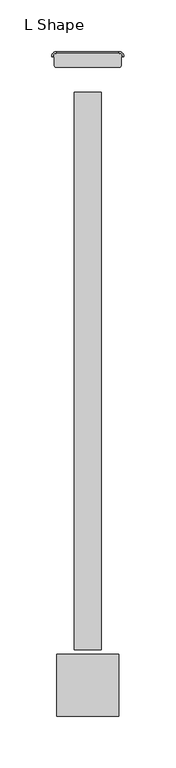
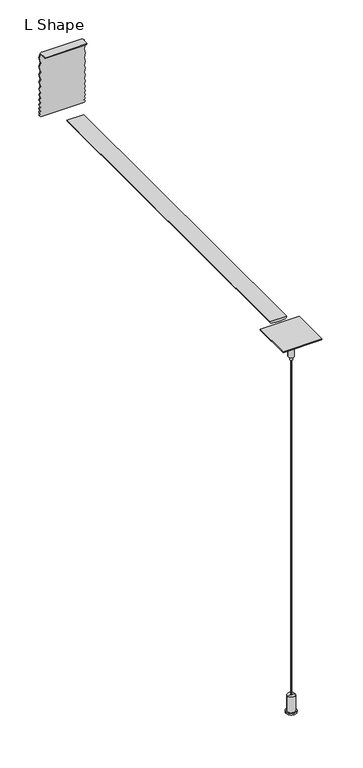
"""IFC4 building model written with IfcOpenShell, lengths in millimetres: light fixture geometry, Lighting-Pendant-Betacalco-Bellows-L_Shape : L Shape."""

from ifc_helpers import new_model, si_unit, point, frame, frame_2d, origin, place, context, project, spatial, polyline, circle_curve, trimmed, segment, composite_curve, outline, extrude, source, transform, mapped, element, save
from ifc_brep_helpers import plane_surface, cylinder_surface, revolved_surface, advanced_brep


def l_shape_80f5c92a(model_context):
    return source(origin(), model_context, "Body", "SolidModel", [
        extrude(outline(polyline([(334.6958, -30.1625), (274.9042, -30.1625), (274.9042, 30.1625), (334.6958, 30.1625), (334.6958, -30.1625)])), frame((0.0, 0.0, 612.648), z_axis=(0.0, 0.0, 1.0), x_axis=(1.0, 0.0, 0.0)), (0.0, 0.0, 1.0), 1.524),
        advanced_brep(
        [(312.8, 0.0, 0.0), (312.8, 0.0, 2.05), (296.8, 0.0, 2.05), (296.8, 0.0, 0.0), (310.8, 0.0, 2.05), (298.8, 0.0, 2.05), (310.8, 0.0, 27.4), (298.8, 0.0, 27.4), (304.8, 0.0, 27.4), (304.8, 0.0, 0.0)],
        [
            (0, 1),
            (1, 2, circle_curve(frame((304.8, 0.0, 2.05), z_axis=(0.0, 0.0, -1.0), x_axis=(-1.0, 0.0, 0.0)), 8.0)),
            (2, 3),
            (3, 0, circle_curve(frame((304.8, 0.0, 0.0), z_axis=(0.0, 0.0, 1.0), x_axis=(-1.0, 0.0, 0.0)), 8.0)),
            (2, 1, circle_curve(frame((304.8, 0.0, 2.05), z_axis=(0.0, 0.0, -1.0), x_axis=(-1.0, 0.0, 0.0)), 8.0)),
            (0, 3, circle_curve(frame((304.8, 0.0, 0.0), z_axis=(0.0, 0.0, 1.0), x_axis=(-1.0, 0.0, 0.0)), 8.0)),
            (1, 4),
            (4, 5, circle_curve(frame((304.8, 0.0, 2.05), z_axis=(0.0, 0.0, -1.0), x_axis=(-1.0, 0.0, 0.0)), 6.0)),
            (5, 2),
            (5, 4, circle_curve(frame((304.8, 0.0, 2.05), z_axis=(0.0, 0.0, -1.0), x_axis=(-1.0, 0.0, 0.0)), 6.0)),
            (4, 6),
            (6, 7, circle_curve(frame((304.8, 0.0, 27.4), z_axis=(0.0, 0.0, -1.0), x_axis=(-1.0, 0.0, 0.0)), 6.0)),
            (7, 5),
            (7, 6, circle_curve(frame((304.8, 0.0, 27.4), z_axis=(0.0, 0.0, -1.0), x_axis=(-1.0, 0.0, 0.0)), 6.0)),
            (6, 8),
            (8, 7),
            (9, 0),
            (3, 9),
        ],
        [
            cylinder_surface(frame((304.8, 0.0, 2366.7150031), z_axis=(0.0, 0.0, -1.0), x_axis=(-1.0, 0.0, 0.0)), 8.0),
            plane_surface(frame((304.8, 0.0, 2.05), z_axis=(0.0, 0.0, 1.0), x_axis=(-1.0, 0.0, 0.0))),
            cylinder_surface(frame((304.8, 0.0, 2366.7150031), z_axis=(0.0, 0.0, -1.0), x_axis=(-1.0, 0.0, 0.0)), 6.0),
            plane_surface(frame((304.8, 0.0, 27.4), z_axis=(0.0, 0.0, 1.0), x_axis=(-1.0, 0.0, 0.0))),
            plane_surface(frame((304.8, 0.0, 0.0), z_axis=(0.0, 0.0, -1.0), x_axis=(-1.0, 0.0, 0.0))),
        ],
        [
            (0, [[1, 2, 3, 4]]),
            (0, [[-3, 5, -1, 6]]),
            (1, [[7, 8, 9, -2]]),
            (1, [[-9, 10, -7, -5]]),
            (2, [[11, 12, 13, -8]]),
            (2, [[-13, 14, -11, -10]]),
            (3, [[15, 16, -12]]),
            (3, [[-16, -15, -14]]),
            (4, [[17, -4, 18]]),
            (4, [[-18, -6, -17]]),
        ],
    ),
        advanced_brep(
        [(305.5937476, 0.0, 27.4), (305.5937476, 0.0, 572.93256), (304.0062524, 0.0, 572.93256), (304.0062524, 0.0, 27.4), (304.8, 0.0, 27.4), (304.8, 0.0, 572.93256)],
        [
            (0, 1),
            (1, 2, circle_curve(frame((304.8, 0.0, 572.93256), z_axis=(0.0, 0.0, -1.0), x_axis=(-1.0, 0.0, 0.0)), 0.7937476)),
            (2, 3),
            (3, 0, circle_curve(frame((304.8, 0.0, 27.4), z_axis=(0.0, 0.0, 1.0), x_axis=(-1.0, 0.0, 0.0)), 0.7937476)),
            (2, 1, circle_curve(frame((304.8, 0.0, 572.93256), z_axis=(0.0, 0.0, -1.0), x_axis=(-1.0, 0.0, 0.0)), 0.7937476)),
            (0, 3, circle_curve(frame((304.8, 0.0, 27.4), z_axis=(0.0, 0.0, 1.0), x_axis=(-1.0, 0.0, 0.0)), 0.7937476)),
            (4, 0),
            (3, 4),
            (1, 5),
            (5, 2),
        ],
        [
            cylinder_surface(frame((304.8, 0.0, 2366.7150031), z_axis=(0.0, 0.0, -1.0), x_axis=(-1.0, 0.0, 0.0)), 0.7937476),
            plane_surface(frame((304.8, 0.0, 27.4), z_axis=(0.0, 0.0, -1.0), x_axis=(-1.0, 0.0, 0.0))),
            plane_surface(frame((304.8, 0.0, 572.93256), z_axis=(0.0, 0.0, 1.0), x_axis=(-1.0, 0.0, 0.0))),
        ],
        [
            (0, [[1, 2, 3, 4]]),
            (0, [[-3, 5, -1, 6]]),
            (1, [[7, -4, 8]]),
            (1, [[-8, -6, -7]]),
            (2, [[9, 10, -2]]),
            (2, [[-10, -9, -5]]),
        ],
    ),
        advanced_brep(
        [(309.2704, 0.0, 578.64756), (309.2704, 0.0, 612.648), (300.3296, 0.0, 612.648), (300.3296, 0.0, 578.64756), (306.7304, 0.0, 578.64756), (302.8696, 0.0, 578.64756), (306.7304, 0.0, 572.93256), (302.8696, 0.0, 572.93256), (304.8, 0.0, 572.93256), (304.8, 0.0, 612.648)],
        [
            (0, 1),
            (1, 2, circle_curve(frame((304.8, 0.0, 612.648), z_axis=(0.0, 0.0, -1.0), x_axis=(-1.0, 0.0, 0.0)), 4.4704)),
            (2, 3),
            (3, 0, circle_curve(frame((304.8, 0.0, 578.64756), z_axis=(0.0, 0.0, 1.0), x_axis=(-1.0, 0.0, 0.0)), 4.4704)),
            (2, 1, circle_curve(frame((304.8, 0.0, 612.648), z_axis=(0.0, 0.0, -1.0), x_axis=(-1.0, 0.0, 0.0)), 4.4704)),
            (0, 3, circle_curve(frame((304.8, 0.0, 578.64756), z_axis=(0.0, 0.0, 1.0), x_axis=(-1.0, 0.0, 0.0)), 4.4704)),
            (4, 0),
            (3, 5),
            (5, 4, circle_curve(frame((304.8, 0.0, 578.64756), z_axis=(0.0, 0.0, 1.0), x_axis=(-1.0, 0.0, 0.0)), 1.9304)),
            (4, 5, circle_curve(frame((304.8, 0.0, 578.64756), z_axis=(0.0, 0.0, 1.0), x_axis=(-1.0, 0.0, 0.0)), 1.9304)),
            (6, 4),
            (5, 7),
            (7, 6, circle_curve(frame((304.8, 0.0, 572.93256), z_axis=(0.0, 0.0, 1.0), x_axis=(-1.0, 0.0, 0.0)), 1.9304)),
            (6, 7, circle_curve(frame((304.8, 0.0, 572.93256), z_axis=(0.0, 0.0, 1.0), x_axis=(-1.0, 0.0, 0.0)), 1.9304)),
            (8, 6),
            (7, 8),
            (1, 9),
            (9, 2),
        ],
        [
            cylinder_surface(frame((304.8, 0.0, 2366.7150031), z_axis=(0.0, 0.0, -1.0), x_axis=(-1.0, 0.0, 0.0)), 4.4704),
            plane_surface(frame((304.8, 0.0, 578.64756), z_axis=(0.0, 0.0, -1.0), x_axis=(-1.0, 0.0, 0.0))),
            cylinder_surface(frame((304.8, 0.0, 2366.7150031), z_axis=(0.0, 0.0, -1.0), x_axis=(-1.0, 0.0, 0.0)), 1.9304),
            plane_surface(frame((304.8, 0.0, 572.93256), z_axis=(0.0, 0.0, -1.0), x_axis=(-1.0, 0.0, 0.0))),
            plane_surface(frame((304.8, 0.0, 612.648), z_axis=(0.0, 0.0, 1.0), x_axis=(-1.0, 0.0, 0.0))),
        ],
        [
            (0, [[1, 2, 3, 4]]),
            (0, [[-3, 5, -1, 6]]),
            (1, [[7, -4, 8, 9]]),
            (1, [[-8, -6, -7, 10]]),
            (2, [[11, -9, 12, 13]]),
            (2, [[-12, -10, -11, 14]]),
            (3, [[15, -13, 16]]),
            (3, [[-16, -14, -15]]),
            (4, [[17, 18, -2]]),
            (4, [[-18, -17, -5]]),
        ],
    ),
        extrude(outline(composite_curve([segment(trimmed(circle_curve(frame_2d((617.6899758, 295.0365915)), 3.0000001), [point((616.3504727, 292.3522421))], [point((614.7956432, 294.2473898))], False, "CARTESIAN"), True, "CONTINUOUS"), segment(trimmed(circle_curve(frame_2d((653.4964752, 304.8)), 40.113738), [point((614.7956432, 294.2473898))], [point((614.7956432, 315.3526102))], False, "CARTESIAN"), True, "CONTINUOUS"), segment(trimmed(circle_curve(frame_2d((617.6899758, 314.5634085)), 3.0000001), [point((614.7956432, 315.3526102))], [point((616.3504727, 317.2477579))], False, "CARTESIAN"), True, "CONTINUOUS"), segment(polyline([(616.3504727, 317.2477579), (617.6039135, 317.8732308), (617.6039135, 291.7267692), (616.3504727, 292.3522421)]), True, "CONTINUOUS")], self_intersect=False)), frame((0.0, 34.29, 0.0), z_axis=(0.0, 1.0, 0.0), x_axis=(0.0, 0.0, 1.0)), (0.0, 0.0, 1.0), 541.02),
        advanced_brep(
        [(339.9474913, 609.6, 611.632), (338.1694913, 609.6, 613.664), (339.9474913, 609.6, 616.204), (338.1694913, 609.6, 618.744), (339.9474913, 609.6, 621.792), (338.1694913, 609.6, 624.84), (339.9474913, 609.6, 628.396), (338.1694913, 609.6, 631.952), (339.9474913, 609.6, 635.762), (338.1694913, 609.6, 639.572), (339.91885, 609.6, 644.0703509), (338.1966915, 609.6, 648.6460566), (339.9239968, 609.6, 653.7288728), (338.1919128, 609.6, 658.8119386), (339.9278878, 609.6, 664.402389), (338.1882749, 609.6, 669.9929656), (339.9308966, 609.6, 676.091104), (338.1848944, 609.6, 682.1911894), (339.9351705, 609.6, 689.3067168), (338.1815995, 609.6, 696.4195673), (339.9359826, 609.6, 703.786321), (338.1694913, 609.6, 711.2), (337.4229178, 609.6, 711.2), (337.4229178, 609.6, 709.8332722), (272.1770822, 609.6, 709.8332722), (272.1770822, 609.6, 711.2), (271.4305087, 609.6, 711.2), (269.6640174, 609.6, 703.786321), (271.4184005, 609.6, 696.4195673), (269.6648295, 609.6, 689.3067168), (271.4151056, 609.6, 682.1911894), (269.6691034, 609.6, 676.091104), (271.4117251, 609.6, 669.9929656), (269.6721122, 609.6, 664.402389), (271.4080872, 609.6, 658.8119386), (269.6760032, 609.6, 653.7288728), (271.4033085, 609.6, 648.6460566), (269.68115, 609.6, 644.0703509), (271.4305087, 609.6, 639.572), (269.6525087, 609.6, 635.762), (271.4305087, 609.6, 631.952), (269.6525087, 609.6, 628.396), (271.4305087, 609.6, 624.84), (269.6525087, 609.6, 621.792), (271.4305087, 609.6, 618.744), (269.6525087, 609.6, 616.204), (271.4305087, 609.6, 613.664), (269.6525087, 609.6, 611.632), (271.4305087, 609.6, 609.6), (338.1694913, 609.6, 609.6), (334.7564913, 613.013, 609.6), (334.7564913, 614.791, 611.632), (274.8435087, 613.013, 609.6), (334.7564913, 613.013, 711.2), (274.8435087, 613.013, 711.2), (272.2845297, 600.7807007, 711.2), (273.3999402, 599.6222216, 711.2), (336.2000598, 599.6222216, 711.2), (337.3154703, 600.7807007, 711.2), (334.7564913, 614.7794913, 703.786321), (334.7564913, 613.0251082, 696.4195673), (334.7564913, 614.7786792, 689.3067168), (334.7564913, 613.0284031, 682.1911894), (334.7564913, 614.7744054, 676.091104), (334.7564913, 613.0317837, 669.9929656), (334.7564913, 614.7713965, 664.402389), (334.7564913, 613.0354215, 658.8119386), (334.7564913, 614.7675055, 653.7288728), (334.7564913, 613.0402002, 648.6460566), (334.7564913, 614.7623587, 644.0703509), (334.7564913, 613.013, 639.572), (334.7564913, 614.791, 635.762), (334.7564913, 613.013, 631.952), (334.7564913, 614.791, 628.396), (334.7564913, 613.013, 624.84), (334.7564913, 614.791, 621.792), (334.7564913, 613.013, 618.744), (334.7564913, 614.791, 616.204), (334.7564913, 613.013, 613.664), (274.8435087, 614.791, 611.632), (274.8435087, 614.7794913, 703.786321), (274.8435087, 613.0251082, 696.4195673), (274.8435087, 614.7786792, 689.3067168), (274.8435087, 613.0284031, 682.1911894), (274.8435087, 614.7744054, 676.091104), (274.8435087, 613.0317837, 669.9929656), (274.8435087, 614.7713965, 664.402389), (274.8435087, 613.0354215, 658.8119386), (274.8435087, 614.7675055, 653.7288728), (274.8435087, 613.0402002, 648.6460566), (274.8435087, 614.7623587, 644.0703509), (274.8435087, 613.013, 639.572), (274.8435087, 614.791, 635.762), (274.8435087, 613.013, 631.952), (274.8435087, 614.791, 628.396), (274.8435087, 613.013, 624.84), (274.8435087, 614.791, 621.792), (274.8435087, 613.013, 618.744), (274.8435087, 614.791, 616.204), (274.8435087, 613.013, 613.664), (273.3999402, 599.6222216, 709.8332722), (272.2845297, 600.7807007, 709.8332722), (337.3154703, 600.7807007, 709.8332722), (336.2000598, 599.6222216, 709.8332722)],
        [
            (0, 1),
            (1, 2),
            (2, 3),
            (3, 4),
            (4, 5),
            (5, 6),
            (6, 7),
            (7, 8),
            (8, 9),
            (9, 10),
            (10, 11),
            (11, 12),
            (12, 13),
            (13, 14),
            (14, 15),
            (15, 16),
            (16, 17),
            (17, 18),
            (18, 19),
            (19, 20),
            (20, 21),
            (21, 22),
            (22, 23),
            (23, 24),
            (24, 25),
            (25, 26),
            (26, 27),
            (27, 28),
            (28, 29),
            (29, 30),
            (30, 31),
            (31, 32),
            (32, 33),
            (33, 34),
            (34, 35),
            (35, 36),
            (36, 37),
            (37, 38),
            (38, 39),
            (39, 40),
            (40, 41),
            (41, 42),
            (42, 43),
            (43, 44),
            (44, 45),
            (45, 46),
            (46, 47),
            (47, 48),
            (48, 49),
            (49, 0),
            (49, 50, circle_curve(frame((334.7564913, 609.6, 609.6), z_axis=(0.0, 0.0, 1.0), x_axis=(1.0, 0.0, 0.0)), 3.413)),
            (50, 51),
            (51, 0, circle_curve(frame((334.7564913, 609.6, 611.632), z_axis=(0.0, 0.0, -1.0), x_axis=(1.0, 0.0, 0.0)), 5.191)),
            (48, 52, circle_curve(frame((274.8435087, 609.6, 609.6), z_axis=(0.0, 0.0, -1.0), x_axis=(0.0, 1.0, 0.0)), 3.413)),
            (52, 50),
            (53, 54),
            (54, 26, circle_curve(frame((274.8435087, 609.6, 711.2), z_axis=(0.0, 0.0, 1.0), x_axis=(0.0, 1.0, 0.0)), 3.413)),
            (25, 55),
            (55, 56),
            (56, 57),
            (57, 58),
            (58, 22),
            (21, 53, circle_curve(frame((334.7564913, 609.6, 711.2), z_axis=(0.0, 0.0, 1.0), x_axis=(1.0, 0.0, 0.0)), 3.413)),
            (20, 59, circle_curve(frame((334.7564913, 609.6, 703.786321), z_axis=(0.0, 0.0, 1.0), x_axis=(1.0, 0.0, 0.0)), 5.1794913)),
            (59, 53),
            (19, 60, circle_curve(frame((334.7564913, 609.6, 696.4195673), z_axis=(0.0, 0.0, 1.0), x_axis=(1.0, 0.0, 0.0)), 3.4251082)),
            (60, 59),
            (18, 61, circle_curve(frame((334.7564913, 609.6, 689.3067168), z_axis=(0.0, 0.0, 1.0), x_axis=(1.0, 0.0, 0.0)), 5.1786792)),
            (61, 60),
            (17, 62, circle_curve(frame((334.7564913, 609.6, 682.1911894), z_axis=(0.0, 0.0, 1.0), x_axis=(1.0, 0.0, 0.0)), 3.4284031)),
            (62, 61),
            (16, 63, circle_curve(frame((334.7564913, 609.6, 676.091104), z_axis=(0.0, 0.0, 1.0), x_axis=(1.0, 0.0, 0.0)), 5.1744054)),
            (63, 62),
            (15, 64, circle_curve(frame((334.7564913, 609.6, 669.9929656), z_axis=(0.0, 0.0, 1.0), x_axis=(1.0, 0.0, 0.0)), 3.4317837)),
            (64, 63),
            (14, 65, circle_curve(frame((334.7564913, 609.6, 664.402389), z_axis=(0.0, 0.0, 1.0), x_axis=(1.0, 0.0, 0.0)), 5.1713965)),
            (65, 64),
            (13, 66, circle_curve(frame((334.7564913, 609.6, 658.8119386), z_axis=(0.0, 0.0, 1.0), x_axis=(1.0, 0.0, 0.0)), 3.4354215)),
            (66, 65),
            (12, 67, circle_curve(frame((334.7564913, 609.6, 653.7288728), z_axis=(0.0, 0.0, 1.0), x_axis=(1.0, 0.0, 0.0)), 5.1675055)),
            (67, 66),
            (11, 68, circle_curve(frame((334.7564913, 609.6, 648.6460566), z_axis=(0.0, 0.0, 1.0), x_axis=(1.0, 0.0, 0.0)), 3.4402002)),
            (68, 67),
            (10, 69, circle_curve(frame((334.7564913, 609.6, 644.0703509), z_axis=(0.0, 0.0, 1.0), x_axis=(1.0, 0.0, 0.0)), 5.1623587)),
            (69, 68),
            (9, 70, circle_curve(frame((334.7564913, 609.6, 639.572), z_axis=(0.0, 0.0, 1.0), x_axis=(1.0, 0.0, 0.0)), 3.413)),
            (70, 69),
            (8, 71, circle_curve(frame((334.7564913, 609.6, 635.762), z_axis=(0.0, 0.0, 1.0), x_axis=(1.0, 0.0, 0.0)), 5.191)),
            (71, 70),
            (7, 72, circle_curve(frame((334.7564913, 609.6, 631.952), z_axis=(0.0, 0.0, 1.0), x_axis=(1.0, 0.0, 0.0)), 3.413)),
            (72, 71),
            (6, 73, circle_curve(frame((334.7564913, 609.6, 628.396), z_axis=(0.0, 0.0, 1.0), x_axis=(1.0, 0.0, 0.0)), 5.191)),
            (73, 72),
            (5, 74, circle_curve(frame((334.7564913, 609.6, 624.84), z_axis=(0.0, 0.0, 1.0), x_axis=(1.0, 0.0, 0.0)), 3.413)),
            (74, 73),
            (4, 75, circle_curve(frame((334.7564913, 609.6, 621.792), z_axis=(0.0, 0.0, 1.0), x_axis=(1.0, 0.0, 0.0)), 5.191)),
            (75, 74),
            (3, 76, circle_curve(frame((334.7564913, 609.6, 618.744), z_axis=(0.0, 0.0, 1.0), x_axis=(1.0, 0.0, 0.0)), 3.413)),
            (76, 75),
            (2, 77, circle_curve(frame((334.7564913, 609.6, 616.204), z_axis=(0.0, 0.0, 1.0), x_axis=(1.0, 0.0, 0.0)), 5.191)),
            (77, 76),
            (1, 78, circle_curve(frame((334.7564913, 609.6, 613.664), z_axis=(0.0, 0.0, 1.0), x_axis=(1.0, 0.0, 0.0)), 3.413)),
            (78, 77),
            (51, 78),
            (52, 79),
            (79, 51),
            (59, 80),
            (80, 54),
            (60, 81),
            (81, 80),
            (61, 82),
            (82, 81),
            (62, 83),
            (83, 82),
            (63, 84),
            (84, 83),
            (64, 85),
            (85, 84),
            (65, 86),
            (86, 85),
            (66, 87),
            (87, 86),
            (67, 88),
            (88, 87),
            (68, 89),
            (89, 88),
            (69, 90),
            (90, 89),
            (70, 91),
            (91, 90),
            (71, 92),
            (92, 91),
            (72, 93),
            (93, 92),
            (73, 94),
            (94, 93),
            (74, 95),
            (95, 94),
            (75, 96),
            (96, 95),
            (76, 97),
            (97, 96),
            (77, 98),
            (98, 97),
            (78, 99),
            (99, 98),
            (79, 99),
            (100, 101),
            (101, 24),
            (23, 102),
            (102, 103),
            (103, 100),
            (55, 101),
            (100, 56),
            (58, 102),
            (57, 103),
            (47, 79, circle_curve(frame((274.8435087, 609.6, 611.632), z_axis=(0.0, 0.0, -1.0), x_axis=(0.0, 1.0, 0.0)), 5.191)),
            (80, 27, circle_curve(frame((274.8435087, 609.6, 703.786321), z_axis=(0.0, 0.0, 1.0), x_axis=(0.0, 1.0, 0.0)), 5.1794913)),
            (81, 28, circle_curve(frame((274.8435087, 609.6, 696.4195673), z_axis=(0.0, 0.0, 1.0), x_axis=(0.0, 1.0, 0.0)), 3.4251082)),
            (82, 29, circle_curve(frame((274.8435087, 609.6, 689.3067168), z_axis=(0.0, 0.0, 1.0), x_axis=(0.0, 1.0, 0.0)), 5.1786792)),
            (83, 30, circle_curve(frame((274.8435087, 609.6, 682.1911894), z_axis=(0.0, 0.0, 1.0), x_axis=(0.0, 1.0, 0.0)), 3.4284031)),
            (84, 31, circle_curve(frame((274.8435087, 609.6, 676.091104), z_axis=(0.0, 0.0, 1.0), x_axis=(0.0, 1.0, 0.0)), 5.1744054)),
            (85, 32, circle_curve(frame((274.8435087, 609.6, 669.9929656), z_axis=(0.0, 0.0, 1.0), x_axis=(0.0, 1.0, 0.0)), 3.4317837)),
            (86, 33, circle_curve(frame((274.8435087, 609.6, 664.402389), z_axis=(0.0, 0.0, 1.0), x_axis=(0.0, 1.0, 0.0)), 5.1713965)),
            (87, 34, circle_curve(frame((274.8435087, 609.6, 658.8119386), z_axis=(0.0, 0.0, 1.0), x_axis=(0.0, 1.0, 0.0)), 3.4354215)),
            (88, 35, circle_curve(frame((274.8435087, 609.6, 653.7288728), z_axis=(0.0, 0.0, 1.0), x_axis=(0.0, 1.0, 0.0)), 5.1675055)),
            (89, 36, circle_curve(frame((274.8435087, 609.6, 648.6460566), z_axis=(0.0, 0.0, 1.0), x_axis=(0.0, 1.0, 0.0)), 3.4402002)),
            (90, 37, circle_curve(frame((274.8435087, 609.6, 644.0703509), z_axis=(0.0, 0.0, 1.0), x_axis=(0.0, 1.0, 0.0)), 5.1623587)),
            (91, 38, circle_curve(frame((274.8435087, 609.6, 639.572), z_axis=(0.0, 0.0, 1.0), x_axis=(0.0, 1.0, 0.0)), 3.413)),
            (92, 39, circle_curve(frame((274.8435087, 609.6, 635.762), z_axis=(0.0, 0.0, 1.0), x_axis=(0.0, 1.0, 0.0)), 5.191)),
            (93, 40, circle_curve(frame((274.8435087, 609.6, 631.952), z_axis=(0.0, 0.0, 1.0), x_axis=(0.0, 1.0, 0.0)), 3.413)),
            (94, 41, circle_curve(frame((274.8435087, 609.6, 628.396), z_axis=(0.0, 0.0, 1.0), x_axis=(0.0, 1.0, 0.0)), 5.191)),
            (95, 42, circle_curve(frame((274.8435087, 609.6, 624.84), z_axis=(0.0, 0.0, 1.0), x_axis=(0.0, 1.0, 0.0)), 3.413)),
            (96, 43, circle_curve(frame((274.8435087, 609.6, 621.792), z_axis=(0.0, 0.0, 1.0), x_axis=(0.0, 1.0, 0.0)), 5.191)),
            (97, 44, circle_curve(frame((274.8435087, 609.6, 618.744), z_axis=(0.0, 0.0, 1.0), x_axis=(0.0, 1.0, 0.0)), 3.413)),
            (98, 45, circle_curve(frame((274.8435087, 609.6, 616.204), z_axis=(0.0, 0.0, 1.0), x_axis=(0.0, 1.0, 0.0)), 5.191)),
            (99, 46, circle_curve(frame((274.8435087, 609.6, 613.664), z_axis=(0.0, 0.0, 1.0), x_axis=(0.0, 1.0, 0.0)), 3.413)),
        ],
        [
            plane_surface(frame((340.1935941, 609.6, 609.6), z_axis=(0.0, -1.0, 0.0), x_axis=(0.0, 0.0, 1.0))),
            revolved_surface(polyline([(339.9474913, 609.6, 611.632), (338.1694913, 609.6, 609.6)]), (334.7564913, 609.6, 609.6), (0.0, 0.0, -1.0)),
            plane_surface(frame((334.7564913, 609.6, 609.6), z_axis=(0.0, 0.0, -1.0), x_axis=(1.0, 0.0, 0.0))),
            plane_surface(frame((334.7564913, 609.6, 711.2), z_axis=(0.0, 0.0, 1.0), x_axis=(1.0, 0.0, 0.0))),
            revolved_surface(polyline([(338.1694913, 609.6, 711.2), (339.9359826, 609.6, 703.786321)]), (334.7564913, 609.6, 609.6), (0.0, 0.0, -1.0)),
            revolved_surface(polyline([(339.9359826, 609.6, 703.786321), (338.1815995, 609.6, 696.4195673)]), (334.7564913, 609.6, 609.6), (0.0, 0.0, -1.0)),
            revolved_surface(polyline([(338.1815995, 609.6, 696.4195673), (339.9351705, 609.6, 689.3067168)]), (334.7564913, 609.6, 609.6), (0.0, 0.0, -1.0)),
            revolved_surface(polyline([(339.9351705, 609.6, 689.3067168), (338.1848944, 609.6, 682.1911894)]), (334.7564913, 609.6, 609.6), (0.0, 0.0, -1.0)),
            revolved_surface(polyline([(338.1848944, 609.6, 682.1911894), (339.9308966, 609.6, 676.091104)]), (334.7564913, 609.6, 609.6), (0.0, 0.0, -1.0)),
            revolved_surface(polyline([(339.9308966, 609.6, 676.091104), (338.1882749, 609.6, 669.9929656)]), (334.7564913, 609.6, 609.6), (0.0, 0.0, -1.0)),
            revolved_surface(polyline([(338.1882749, 609.6, 669.9929656), (339.9278878, 609.6, 664.402389)]), (334.7564913, 609.6, 609.6), (0.0, 0.0, -1.0)),
            revolved_surface(polyline([(339.9278878, 609.6, 664.402389), (338.1919128, 609.6, 658.8119386)]), (334.7564913, 609.6, 609.6), (0.0, 0.0, -1.0)),
            revolved_surface(polyline([(338.1919128, 609.6, 658.8119386), (339.9239968, 609.6, 653.7288728)]), (334.7564913, 609.6, 609.6), (0.0, 0.0, -1.0)),
            revolved_surface(polyline([(339.9239968, 609.6, 653.7288728), (338.1966915, 609.6, 648.6460566)]), (334.7564913, 609.6, 609.6), (0.0, 0.0, -1.0)),
            revolved_surface(polyline([(338.1966915, 609.6, 648.6460566), (339.91885, 609.6, 644.0703509)]), (334.7564913, 609.6, 609.6), (0.0, 0.0, -1.0)),
            revolved_surface(polyline([(339.91885, 609.6, 644.0703509), (338.1694913, 609.6, 639.572)]), (334.7564913, 609.6, 609.6), (0.0, 0.0, -1.0)),
            revolved_surface(polyline([(338.1694913, 609.6, 639.572), (339.9474913, 609.6, 635.762)]), (334.7564913, 609.6, 609.6), (0.0, 0.0, -1.0)),
            revolved_surface(polyline([(339.9474913, 609.6, 635.762), (338.1694913, 609.6, 631.952)]), (334.7564913, 609.6, 609.6), (0.0, 0.0, -1.0)),
            revolved_surface(polyline([(338.1694913, 609.6, 631.952), (339.9474913, 609.6, 628.396)]), (334.7564913, 609.6, 609.6), (0.0, 0.0, -1.0)),
            revolved_surface(polyline([(339.9474913, 609.6, 628.396), (338.1694913, 609.6, 624.84)]), (334.7564913, 609.6, 609.6), (0.0, 0.0, -1.0)),
            revolved_surface(polyline([(338.1694913, 609.6, 624.84), (339.9474913, 609.6, 621.792)]), (334.7564913, 609.6, 609.6), (0.0, 0.0, -1.0)),
            revolved_surface(polyline([(339.9474913, 609.6, 621.792), (338.1694913, 609.6, 618.744)]), (334.7564913, 609.6, 609.6), (0.0, 0.0, -1.0)),
            revolved_surface(polyline([(338.1694913, 609.6, 618.744), (339.9474913, 609.6, 616.204)]), (334.7564913, 609.6, 609.6), (0.0, 0.0, -1.0)),
            revolved_surface(polyline([(339.9474913, 609.6, 616.204), (338.1694913, 609.6, 613.664)]), (334.7564913, 609.6, 609.6), (0.0, 0.0, -1.0)),
            revolved_surface(polyline([(338.1694913, 609.6, 613.664), (339.9474913, 609.6, 611.632)]), (334.7564913, 609.6, 609.6), (0.0, 0.0, -1.0)),
            plane_surface(frame((334.7564913, 614.791, 611.632), z_axis=(0.0, 0.7525766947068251, -0.6585046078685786), x_axis=(-1.0, 0.0, 0.0))),
            plane_surface(frame((334.7564913, 613.013, 711.2), z_axis=(0.0, 0.9727668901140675, 0.23178562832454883), x_axis=(-1.0, 0.0, 0.0))),
            plane_surface(frame((334.7564913, 614.7794913, 703.786321), z_axis=(0.0, 0.9727944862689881, -0.23166978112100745), x_axis=(-1.0, 0.0, 0.0))),
            plane_surface(frame((334.7564913, 613.0251082, 696.4195673), z_axis=(0.0, 0.9709287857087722, 0.23936852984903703), x_axis=(-1.0, 0.0, 0.0))),
            plane_surface(frame((334.7564913, 614.7786792, 689.3067168), z_axis=(0.0, 0.9710540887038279, -0.23885970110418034), x_axis=(-1.0, 0.0, 0.0))),
            plane_surface(frame((334.7564913, 613.0284031, 682.1911894), z_axis=(0.0, 0.9613939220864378, 0.27517581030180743), x_axis=(-1.0, 0.0, 0.0))),
            plane_surface(frame((334.7564913, 614.7744054, 676.091104), z_axis=(0.0, 0.9615116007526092, -0.2747643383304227), x_axis=(-1.0, 0.0, 0.0))),
            plane_surface(frame((334.7564913, 613.0317837, 669.9929656), z_axis=(0.0, 0.9548411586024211, 0.29711674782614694), x_axis=(-1.0, 0.0, 0.0))),
            plane_surface(frame((334.7564913, 614.7713965, 664.402389), z_axis=(0.0, 0.9550153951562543, -0.29655622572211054), x_axis=(-1.0, 0.0, 0.0))),
            plane_surface(frame((334.7564913, 613.0354215, 658.8119386), z_axis=(0.0, 0.9465545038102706, 0.3225439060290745), x_axis=(-1.0, 0.0, 0.0))),
            plane_surface(frame((334.7564913, 614.7675055, 653.7288728), z_axis=(0.0, 0.9468211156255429, -0.3217604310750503), x_axis=(-1.0, 0.0, 0.0))),
            plane_surface(frame((334.7564913, 613.0402002, 648.6460566), z_axis=(0.0, 0.9359069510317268, 0.3522473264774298), x_axis=(-1.0, 0.0, 0.0))),
            plane_surface(frame((334.7564913, 614.7623587, 644.0703509), z_axis=(0.0, 0.9320046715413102, -0.36244626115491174), x_axis=(-1.0, 0.0, 0.0))),
            plane_surface(frame((334.7564913, 613.013, 639.572), z_axis=(0.0, 0.9061831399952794, 0.42288546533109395), x_axis=(-1.0, 0.0, 0.0))),
            plane_surface(frame((334.7564913, 614.791, 635.762), z_axis=(0.0, 0.9061831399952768, -0.42288546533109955), x_axis=(-1.0, 0.0, 0.0))),
            plane_surface(frame((334.7564913, 613.013, 631.952), z_axis=(0.0, 0.8944271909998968, 0.4472135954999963), x_axis=(-1.0, 0.0, 0.0))),
            plane_surface(frame((334.7564913, 614.791, 628.396), z_axis=(0.0, 0.8944271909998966, -0.44721359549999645), x_axis=(-1.0, 0.0, 0.0))),
            plane_surface(frame((334.7564913, 613.013, 624.84), z_axis=(0.0, 0.8637789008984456, 0.5038710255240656), x_axis=(-1.0, 0.0, 0.0))),
            plane_surface(frame((334.7564913, 614.791, 621.792), z_axis=(0.0, 0.8637789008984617, -0.503871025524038), x_axis=(-1.0, 0.0, 0.0))),
            plane_surface(frame((334.7564913, 613.013, 618.744), z_axis=(0.0, 0.8192319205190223, 0.5734623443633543), x_axis=(-1.0, 0.0, 0.0))),
            plane_surface(frame((334.7564913, 614.791, 616.204), z_axis=(0.0, 0.8192319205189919, -0.5734623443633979), x_axis=(-1.0, 0.0, 0.0))),
            plane_surface(frame((334.7564913, 613.013, 613.664), z_axis=(0.0, 0.7525766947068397, 0.6585046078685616), x_axis=(-1.0, 0.0, 0.0))),
            plane_surface(frame((273.3999402, 599.6222216, 709.8332722), z_axis=(0.0, 0.0, -1.0), x_axis=(0.6935894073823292, -0.7203705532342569, 0.0))),
            plane_surface(frame((273.3999402, 599.6222216, 711.2), z_axis=(-0.7203705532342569, -0.6935894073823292, 0.0), x_axis=(0.0, 0.0, -1.0))),
            plane_surface(frame((272.2845297, 600.7807007, 711.2), z_axis=(-0.9999257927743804, -0.012182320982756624, 0.0), x_axis=(0.0, 0.0, -1.0))),
            plane_surface(frame((337.4229178, 609.6, 711.2), z_axis=(0.9999257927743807, -0.012182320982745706, 0.0), x_axis=(0.0, 0.0, -1.0))),
            plane_surface(frame((337.3154703, 600.7807007, 711.2), z_axis=(0.7203705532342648, -0.693589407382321, 0.0), x_axis=(0.0, 0.0, -1.0))),
            plane_surface(frame((336.2000598, 599.6222216, 711.2), z_axis=(0.0, -1.0, 0.0), x_axis=(0.0, 0.0, -1.0))),
            revolved_surface(polyline([(274.8435087, 614.791, 611.632), (274.8435087, 613.013, 609.6)]), (274.8435087, 609.6, 609.6), (0.0, 0.0, -1.0)),
            revolved_surface(polyline([(274.8435087, 613.013, 711.2), (274.8435087, 614.7794913, 703.786321)]), (274.8435087, 609.6, 609.6), (0.0, 0.0, -1.0)),
            revolved_surface(polyline([(274.8435087, 614.7794913, 703.786321), (274.8435087, 613.0251082, 696.4195673)]), (274.8435087, 609.6, 609.6), (0.0, 0.0, -1.0)),
            revolved_surface(polyline([(274.8435087, 613.0251082, 696.4195673), (274.8435087, 614.7786792, 689.3067168)]), (274.8435087, 609.6, 609.6), (0.0, 0.0, -1.0)),
            revolved_surface(polyline([(274.8435087, 614.7786792, 689.3067168), (274.8435087, 613.0284031, 682.1911894)]), (274.8435087, 609.6, 609.6), (0.0, 0.0, -1.0)),
            revolved_surface(polyline([(274.8435087, 613.0284031, 682.1911894), (274.8435087, 614.7744054, 676.091104)]), (274.8435087, 609.6, 609.6), (0.0, 0.0, -1.0)),
            revolved_surface(polyline([(274.8435087, 614.7744054, 676.091104), (274.8435087, 613.0317837, 669.9929656)]), (274.8435087, 609.6, 609.6), (0.0, 0.0, -1.0)),
            revolved_surface(polyline([(274.8435087, 613.0317837, 669.9929656), (274.8435087, 614.7713965, 664.402389)]), (274.8435087, 609.6, 609.6), (0.0, 0.0, -1.0)),
            revolved_surface(polyline([(274.8435087, 614.7713965, 664.402389), (274.8435087, 613.0354215, 658.8119386)]), (274.8435087, 609.6, 609.6), (0.0, 0.0, -1.0)),
            revolved_surface(polyline([(274.8435087, 613.0354215, 658.8119386), (274.8435087, 614.7675055, 653.7288728)]), (274.8435087, 609.6, 609.6), (0.0, 0.0, -1.0)),
            revolved_surface(polyline([(274.8435087, 614.7675055, 653.7288728), (274.8435087, 613.0402002, 648.6460566)]), (274.8435087, 609.6, 609.6), (0.0, 0.0, -1.0)),
            revolved_surface(polyline([(274.8435087, 613.0402002, 648.6460566), (274.8435087, 614.7623587, 644.0703509)]), (274.8435087, 609.6, 609.6), (0.0, 0.0, -1.0)),
            revolved_surface(polyline([(274.8435087, 614.7623587, 644.0703509), (274.8435087, 613.013, 639.572)]), (274.8435087, 609.6, 609.6), (0.0, 0.0, -1.0)),
            revolved_surface(polyline([(274.8435087, 613.013, 639.572), (274.8435087, 614.791, 635.762)]), (274.8435087, 609.6, 609.6), (0.0, 0.0, -1.0)),
            revolved_surface(polyline([(274.8435087, 614.791, 635.762), (274.8435087, 613.013, 631.952)]), (274.8435087, 609.6, 609.6), (0.0, 0.0, -1.0)),
            revolved_surface(polyline([(274.8435087, 613.013, 631.952), (274.8435087, 614.791, 628.396)]), (274.8435087, 609.6, 609.6), (0.0, 0.0, -1.0)),
            revolved_surface(polyline([(274.8435087, 614.791, 628.396), (274.8435087, 613.013, 624.84)]), (274.8435087, 609.6, 609.6), (0.0, 0.0, -1.0)),
            revolved_surface(polyline([(274.8435087, 613.013, 624.84), (274.8435087, 614.791, 621.792)]), (274.8435087, 609.6, 609.6), (0.0, 0.0, -1.0)),
            revolved_surface(polyline([(274.8435087, 614.791, 621.792), (274.8435087, 613.013, 618.744)]), (274.8435087, 609.6, 609.6), (0.0, 0.0, -1.0)),
            revolved_surface(polyline([(274.8435087, 613.013, 618.744), (274.8435087, 614.791, 616.204)]), (274.8435087, 609.6, 609.6), (0.0, 0.0, -1.0)),
            revolved_surface(polyline([(274.8435087, 614.791, 616.204), (274.8435087, 613.013, 613.664)]), (274.8435087, 609.6, 609.6), (0.0, 0.0, -1.0)),
            revolved_surface(polyline([(274.8435087, 613.013, 613.664), (274.8435087, 614.791, 611.632)]), (274.8435087, 609.6, 609.6), (0.0, 0.0, -1.0)),
        ],
        [
            (0, [[1, 2, 3, 4, 5, 6, 7, 8, 9, 10, 11, 12, 13, 14, 15, 16, 17, 18, 19, 20, 21, 22, 23, 24, 25, 26, 27, 28, 29, 30, 31, 32, 33, 34, 35, 36, 37, 38, 39, 40, 41, 42, 43, 44, 45, 46, 47, 48, 49, 50]]),
            (1, [[51, 52, 53, -50]]),
            (2, [[54, 55, -51, -49]]),
            (3, [[56, 57, -26, 58, 59, 60, 61, 62, -22, 63]]),
            (4, [[64, 65, -63, -21]]),
            (5, [[66, 67, -64, -20]]),
            (6, [[68, 69, -66, -19]]),
            (7, [[70, 71, -68, -18]]),
            (8, [[72, 73, -70, -17]]),
            (9, [[74, 75, -72, -16]]),
            (10, [[76, 77, -74, -15]]),
            (11, [[78, 79, -76, -14]]),
            (12, [[80, 81, -78, -13]]),
            (13, [[82, 83, -80, -12]]),
            (14, [[84, 85, -82, -11]]),
            (15, [[86, 87, -84, -10]]),
            (16, [[88, 89, -86, -9]]),
            (17, [[90, 91, -88, -8]]),
            (18, [[92, 93, -90, -7]]),
            (19, [[94, 95, -92, -6]]),
            (20, [[96, 97, -94, -5]]),
            (21, [[98, 99, -96, -4]]),
            (22, [[100, 101, -98, -3]]),
            (23, [[102, 103, -100, -2]]),
            (24, [[-53, 104, -102, -1]]),
            (25, [[-55, 105, 106, -52]]),
            (26, [[-65, 107, 108, -56]]),
            (27, [[109, 110, -107, -67]]),
            (28, [[111, 112, -109, -69]]),
            (29, [[113, 114, -111, -71]]),
            (30, [[115, 116, -113, -73]]),
            (31, [[117, 118, -115, -75]]),
            (32, [[119, 120, -117, -77]]),
            (33, [[121, 122, -119, -79]]),
            (34, [[123, 124, -121, -81]]),
            (35, [[125, 126, -123, -83]]),
            (36, [[127, 128, -125, -85]]),
            (37, [[129, 130, -127, -87]]),
            (38, [[131, 132, -129, -89]]),
            (39, [[133, 134, -131, -91]]),
            (40, [[135, 136, -133, -93]]),
            (41, [[137, 138, -135, -95]]),
            (42, [[139, 140, -137, -97]]),
            (43, [[141, 142, -139, -99]]),
            (44, [[143, 144, -141, -101]]),
            (45, [[145, 146, -143, -103]]),
            (46, [[-106, 147, -145, -104]]),
            (47, [[148, 149, -24, 150, 151, 152]]),
            (48, [[153, -148, 154, -59]]),
            (49, [[-25, -149, -153, -58]]),
            (50, [[155, -150, -23, -62]]),
            (51, [[156, -151, -155, -61]]),
            (52, [[-154, -152, -156, -60]]),
            (53, [[-48, 157, -105, -54]]),
            (54, [[-108, 158, -27, -57]]),
            (55, [[159, -28, -158, -110]]),
            (56, [[160, -29, -159, -112]]),
            (57, [[161, -30, -160, -114]]),
            (58, [[162, -31, -161, -116]]),
            (59, [[163, -32, -162, -118]]),
            (60, [[164, -33, -163, -120]]),
            (61, [[165, -34, -164, -122]]),
            (62, [[166, -35, -165, -124]]),
            (63, [[167, -36, -166, -126]]),
            (64, [[168, -37, -167, -128]]),
            (65, [[169, -38, -168, -130]]),
            (66, [[170, -39, -169, -132]]),
            (67, [[171, -40, -170, -134]]),
            (68, [[172, -41, -171, -136]]),
            (69, [[173, -42, -172, -138]]),
            (70, [[174, -43, -173, -140]]),
            (71, [[175, -44, -174, -142]]),
            (72, [[176, -45, -175, -144]]),
            (73, [[177, -46, -176, -146]]),
            (74, [[-157, -47, -177, -147]]),
        ],
    ),
    ])


if __name__ == "__main__":
    model = new_model("IFC4")
    model_context = context("Model", 3, world=origin())
    ifc_project = project(units=[si_unit("LENGTHUNIT", "METRE", prefix="MILLI")], contexts=[model_context])
    site = spatial("IfcSite", under=ifc_project)
    building = spatial("IfcBuilding", under=site)
    placement = place(None, origin())
    l_shape_shape = l_shape_80f5c92a(model_context)
    element("IfcLightFixture", 1, ObjectType="Lighting-Pendant-Betacalco-Bellows-L_Shape : L Shape", at=placement, inside=building, context=model_context, shape_type="MappedRepresentation", body=[
        mapped(l_shape_shape, transform((0.0, 0.0, 0.0), x_axis=(1.0, 0.0, 0.0), y_axis=(0.0, 1.0, 0.0), z_axis=(0.0, 0.0, 1.0))),
    ])
    save(model, "model.ifc")
